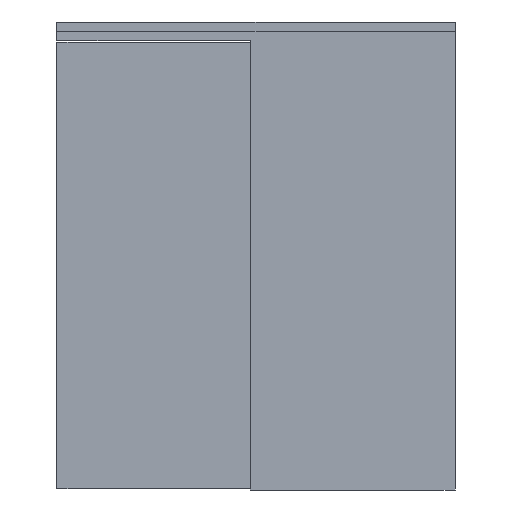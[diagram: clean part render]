
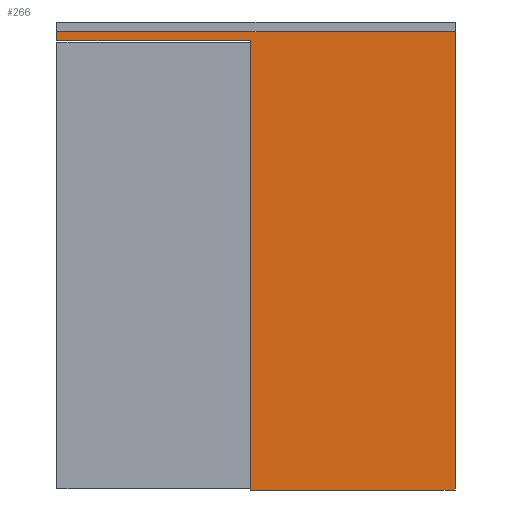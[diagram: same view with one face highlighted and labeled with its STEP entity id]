
A CAD part, front view. The second image highlights one B-rep face of the part: STEP entity #266.
In plain terms, the highlighted planar face has unit normal (0, -1, 0).
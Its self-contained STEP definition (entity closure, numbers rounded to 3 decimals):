
#266=ADVANCED_FACE('',(#724),#725,.F.);
#724=FACE_OUTER_BOUND('',#1389,.T.);
#725=PLANE('',#1390);
#1389=EDGE_LOOP('',(#2087,#2088,#2089,#2090,#2091,#2092));
#1390=AXIS2_PLACEMENT_3D('',#2093,#2094,#2095);
#2087=ORIENTED_EDGE('',*,*,#4006,.T.);
#2088=ORIENTED_EDGE('',*,*,#3996,.F.);
#2089=ORIENTED_EDGE('',*,*,#4000,.F.);
#2090=ORIENTED_EDGE('',*,*,#4004,.T.);
#2091=ORIENTED_EDGE('',*,*,#4007,.F.);
#2092=ORIENTED_EDGE('',*,*,#4008,.F.);
#2093=CARTESIAN_POINT('',(0.0,-44.,2333.0));
#2094=DIRECTION('',(0.0,1.0,-0.0));
#2095=DIRECTION('',(0.0,0.0,1.0));
#3996=EDGE_CURVE('',#4786,#4781,#4788,.T.);
#4000=EDGE_CURVE('',#4792,#4786,#4794,.T.);
#4004=EDGE_CURVE('',#4792,#4798,#4800,.T.);
#4006=EDGE_CURVE('',#4802,#4781,#4803,.T.);
#4007=EDGE_CURVE('',#4804,#4798,#4805,.T.);
#4008=EDGE_CURVE('',#4802,#4804,#4806,.T.);
#4781=VERTEX_POINT('',#5951);
#4786=VERTEX_POINT('',#5958);
#4788=LINE('',#5961,#5962);
#4792=VERTEX_POINT('',#5967);
#4794=LINE('',#5970,#5971);
#4798=VERTEX_POINT('',#5976);
#4800=LINE('',#5979,#5980);
#4802=VERTEX_POINT('',#5982);
#4803=LINE('',#5983,#5984);
#4804=VERTEX_POINT('',#5985);
#4805=LINE('',#5986,#5987);
#4806=LINE('',#5988,#5989);
#5951=CARTESIAN_POINT('',(995.0,-44.,2312.5));
#5958=CARTESIAN_POINT('',(995.0,-44.,0.0));
#5961=CARTESIAN_POINT('',(995.0,-44.,7.0));
#5962=VECTOR('',#7545,1.0);
#5967=CARTESIAN_POINT('',(2050.0,-44.,0.0));
#5970=CARTESIAN_POINT('',(1327.5,-44.,0.0));
#5971=VECTOR('',#7548,1.0);
#5976=CARTESIAN_POINT('',(2050.0,-44.,2360.0));
#5979=CARTESIAN_POINT('',(2050.0,-44.,7.0));
#5980=VECTOR('',#7551,1.0);
#5982=CARTESIAN_POINT('',(0.0,-44.,2312.5));
#5983=CARTESIAN_POINT('',(0.0,-44.,2312.5));
#5984=VECTOR('',#7552,1.0);
#5985=CARTESIAN_POINT('',(0.0,-44.,2360.0));
#5986=CARTESIAN_POINT('',(1270.0,-44.,2360.0));
#5987=VECTOR('',#7553,1.0);
#5988=CARTESIAN_POINT('',(0.0,-44.,2301.0));
#5989=VECTOR('',#7554,1.0);
#7545=DIRECTION('',(0.0,0.0,1.0));
#7548=DIRECTION('',(-1.0,0.0,0.0));
#7551=DIRECTION('',(0.0,0.0,1.0));
#7552=DIRECTION('',(1.0,0.0,0.0));
#7553=DIRECTION('',(1.0,0.0,0.0));
#7554=DIRECTION('',(0.0,0.0,1.0));
